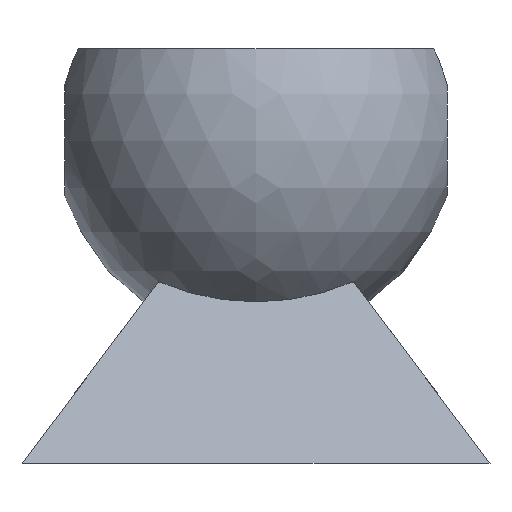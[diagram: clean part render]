
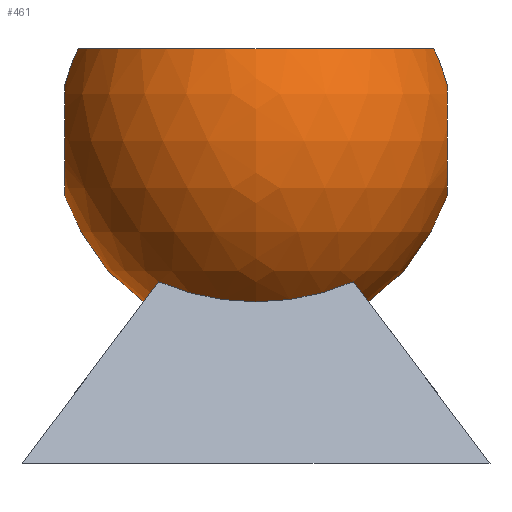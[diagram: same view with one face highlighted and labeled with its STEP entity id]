
A CAD part, left-side view. The second image highlights one B-rep face of the part: STEP entity #461.
In plain terms, the highlighted spherical face has radius 30 mm.
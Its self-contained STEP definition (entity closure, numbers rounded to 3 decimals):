
#117=FACE_OUTER_BOUND('',#142,.T.);
#142=EDGE_LOOP('',(#317,#318,#319,#320,#321,#322,#323,#324,#325,#326,#327,
#328,#329,#330,#331,#332));
#168=CIRCLE('',#501,29.58);
#169=CIRCLE('',#502,27.037);
#170=CIRCLE('',#503,29.58);
#171=CIRCLE('',#504,9.);
#172=CIRCLE('',#505,29.58);
#173=CIRCLE('',#506,27.037);
#174=CIRCLE('',#507,30.);
#175=CIRCLE('',#508,29.961);
#176=CIRCLE('',#509,29.961);
#177=CIRCLE('',#510,29.961);
#178=CIRCLE('',#511,29.961);
#179=CIRCLE('',#512,29.961);
#180=CIRCLE('',#513,27.037);
#181=CIRCLE('',#514,29.58);
#182=CIRCLE('',#515,9.);
#199=VERTEX_POINT('',#716);
#200=VERTEX_POINT('',#717);
#201=VERTEX_POINT('',#719);
#202=VERTEX_POINT('',#721);
#203=VERTEX_POINT('',#723);
#204=VERTEX_POINT('',#725);
#205=VERTEX_POINT('',#727);
#206=VERTEX_POINT('',#729);
#207=VERTEX_POINT('',#731);
#208=VERTEX_POINT('',#733);
#209=VERTEX_POINT('',#735);
#210=VERTEX_POINT('',#737);
#211=VERTEX_POINT('',#740);
#212=VERTEX_POINT('',#742);
#246=EDGE_CURVE('',#199,#200,#168,.T.);
#247=EDGE_CURVE('',#201,#200,#169,.T.);
#248=EDGE_CURVE('',#201,#202,#170,.T.);
#249=EDGE_CURVE('',#202,#203,#171,.T.);
#250=EDGE_CURVE('',#203,#204,#172,.T.);
#251=EDGE_CURVE('',#205,#204,#173,.T.);
#252=EDGE_CURVE('',#205,#206,#174,.T.);
#253=EDGE_CURVE('',#207,#206,#175,.T.);
#254=EDGE_CURVE('',#208,#207,#176,.T.);
#255=EDGE_CURVE('',#209,#208,#177,.T.);
#256=EDGE_CURVE('',#210,#209,#178,.T.);
#257=EDGE_CURVE('',#206,#210,#179,.T.);
#258=EDGE_CURVE('',#211,#205,#180,.T.);
#259=EDGE_CURVE('',#211,#212,#181,.T.);
#260=EDGE_CURVE('',#212,#199,#182,.T.);
#317=ORIENTED_EDGE('',*,*,#246,.T.);
#318=ORIENTED_EDGE('',*,*,#247,.F.);
#319=ORIENTED_EDGE('',*,*,#248,.T.);
#320=ORIENTED_EDGE('',*,*,#249,.T.);
#321=ORIENTED_EDGE('',*,*,#250,.T.);
#322=ORIENTED_EDGE('',*,*,#251,.F.);
#323=ORIENTED_EDGE('',*,*,#252,.T.);
#324=ORIENTED_EDGE('',*,*,#253,.F.);
#325=ORIENTED_EDGE('',*,*,#254,.F.);
#326=ORIENTED_EDGE('',*,*,#255,.F.);
#327=ORIENTED_EDGE('',*,*,#256,.F.);
#328=ORIENTED_EDGE('',*,*,#257,.F.);
#329=ORIENTED_EDGE('',*,*,#252,.F.);
#330=ORIENTED_EDGE('',*,*,#258,.F.);
#331=ORIENTED_EDGE('',*,*,#259,.T.);
#332=ORIENTED_EDGE('',*,*,#260,.T.);
#459=SPHERICAL_SURFACE('',#500,30.);
#461=ADVANCED_FACE('',(#117),#459,.T.);
#500=AXIS2_PLACEMENT_3D('',#715,#560,#561);
#501=AXIS2_PLACEMENT_3D('',#718,#562,#563);
#502=AXIS2_PLACEMENT_3D('',#720,#564,#565);
#503=AXIS2_PLACEMENT_3D('',#722,#566,#567);
#504=AXIS2_PLACEMENT_3D('',#724,#568,#569);
#505=AXIS2_PLACEMENT_3D('',#726,#570,#571);
#506=AXIS2_PLACEMENT_3D('',#728,#572,#573);
#507=AXIS2_PLACEMENT_3D('',#730,#574,#575);
#508=AXIS2_PLACEMENT_3D('',#732,#576,#577);
#509=AXIS2_PLACEMENT_3D('',#734,#578,#579);
#510=AXIS2_PLACEMENT_3D('',#736,#580,#581);
#511=AXIS2_PLACEMENT_3D('',#738,#582,#583);
#512=AXIS2_PLACEMENT_3D('',#739,#584,#585);
#513=AXIS2_PLACEMENT_3D('',#741,#586,#587);
#514=AXIS2_PLACEMENT_3D('',#743,#588,#589);
#515=AXIS2_PLACEMENT_3D('',#744,#590,#591);
#560=DIRECTION('center_axis',(0.,0.,1.));
#561=DIRECTION('ref_axis',(1.,0.,0.));
#562=DIRECTION('center_axis',(1.,0.,0.));
#563=DIRECTION('ref_axis',(0.,0.,1.));
#564=DIRECTION('center_axis',(0.,0.,1.));
#565=DIRECTION('ref_axis',(0.,1.,0.));
#566=DIRECTION('center_axis',(1.,0.,0.));
#567=DIRECTION('ref_axis',(0.,0.,1.));
#568=DIRECTION('center_axis',(0.,1.,0.));
#569=DIRECTION('ref_axis',(1.,0.,0.));
#570=DIRECTION('center_axis',(-1.,0.,0.));
#571=DIRECTION('ref_axis',(0.,0.,-1.));
#572=DIRECTION('center_axis',(0.,0.,1.));
#573=DIRECTION('ref_axis',(0.,1.,0.));
#574=DIRECTION('center_axis',(0.,-1.,0.));
#575=DIRECTION('ref_axis',(-1.,0.,0.));
#576=DIRECTION('center_axis',(0.799,0.,-0.602));
#577=DIRECTION('ref_axis',(0.,1.,0.));
#578=DIRECTION('center_axis',(0.,0.799,-0.602));
#579=DIRECTION('ref_axis',(0.,0.602,0.799));
#580=DIRECTION('center_axis',(-0.799,0.,-0.602));
#581=DIRECTION('ref_axis',(0.,1.,0.));
#582=DIRECTION('center_axis',(0.,-0.799,-0.602));
#583=DIRECTION('ref_axis',(0.,0.602,-0.799));
#584=DIRECTION('center_axis',(0.799,0.,-0.602));
#585=DIRECTION('ref_axis',(0.,1.,0.));
#586=DIRECTION('center_axis',(0.,0.,1.));
#587=DIRECTION('ref_axis',(0.,1.,0.));
#588=DIRECTION('center_axis',(-1.,0.,0.));
#589=DIRECTION('ref_axis',(0.,0.,-1.));
#590=DIRECTION('center_axis',(0.,-1.,0.));
#591=DIRECTION('ref_axis',(1.,0.,0.));
#715=CARTESIAN_POINT('Origin',(0.,0.,0.));
#716=CARTESIAN_POINT('',(5.,28.618,7.483));
#717=CARTESIAN_POINT('',(5.,26.571,13.));
#718=CARTESIAN_POINT('Origin',(5.,0.,0.));
#719=CARTESIAN_POINT('',(5.,-26.571,13.));
#720=CARTESIAN_POINT('Origin',(0.,0.,13.));
#721=CARTESIAN_POINT('',(5.,-28.618,7.483));
#722=CARTESIAN_POINT('Origin',(5.,0.,0.));
#723=CARTESIAN_POINT('',(-5.,-28.618,7.483));
#724=CARTESIAN_POINT('Origin',(0.,-28.618,0.));
#725=CARTESIAN_POINT('',(-5.,-26.571,13.));
#726=CARTESIAN_POINT('Origin',(-5.,0.,0.));
#727=CARTESIAN_POINT('',(-27.037,0.,13.));
#728=CARTESIAN_POINT('Origin',(0.,0.,13.));
#729=CARTESIAN_POINT('',(-16.803,0.,-24.852));
#730=CARTESIAN_POINT('Origin',(0.,0.,0.));
#731=CARTESIAN_POINT('',(-14.538,-14.538,-21.847));
#732=CARTESIAN_POINT('Origin',(1.227,0.,-0.925));
#733=CARTESIAN_POINT('',(14.538,-14.538,-21.847));
#734=CARTESIAN_POINT('Origin',(0.,1.227,-0.925));
#735=CARTESIAN_POINT('',(14.538,14.538,-21.847));
#736=CARTESIAN_POINT('Origin',(-1.227,0.,-0.925));
#737=CARTESIAN_POINT('',(-14.538,14.538,-21.847));
#738=CARTESIAN_POINT('Origin',(0.,-1.227,-0.925));
#739=CARTESIAN_POINT('Origin',(1.227,0.,-0.925));
#740=CARTESIAN_POINT('',(-5.,26.571,13.));
#741=CARTESIAN_POINT('Origin',(0.,0.,13.));
#742=CARTESIAN_POINT('',(-5.,28.618,7.483));
#743=CARTESIAN_POINT('Origin',(-5.,0.,0.));
#744=CARTESIAN_POINT('Origin',(0.,28.618,0.));
